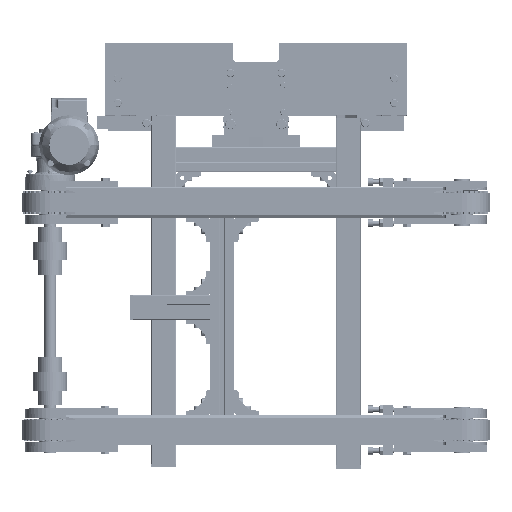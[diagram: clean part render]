
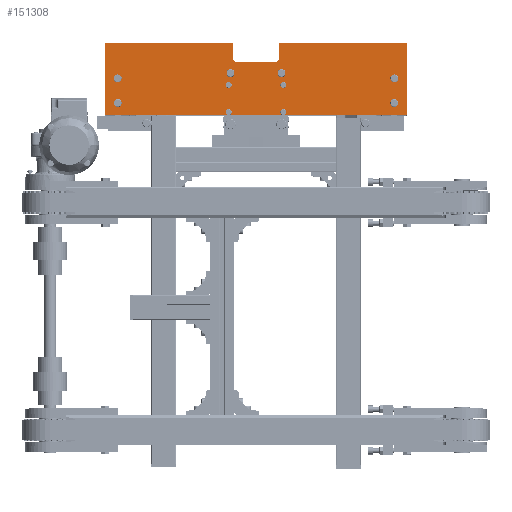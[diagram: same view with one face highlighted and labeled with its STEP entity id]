
A CAD part, top view. The second image highlights one B-rep face of the part: STEP entity #151308.
In plain terms, the highlighted planar face has unit normal (0, 0, 1).
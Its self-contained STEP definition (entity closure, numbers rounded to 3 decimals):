
#6934=LINE('',#249699,#20081);
#6935=LINE('',#249703,#20082);
#6936=LINE('',#249707,#20083);
#6937=LINE('',#249709,#20084);
#6938=LINE('',#249711,#20085);
#6939=LINE('',#249713,#20086);
#6940=LINE('',#249715,#20087);
#6941=LINE('',#249716,#20088);
#20081=VECTOR('',#190258,24.);
#20082=VECTOR('',#190261,63.);
#20083=VECTOR('',#190264,24.);
#20084=VECTOR('',#190265,207.5);
#20085=VECTOR('',#190266,117.);
#20086=VECTOR('',#190267,490.);
#20087=VECTOR('',#190268,117.);
#20088=VECTOR('',#190269,207.5);
#29695=PLANE('',#162528);
#32892=FACE_BOUND('',#49640,.T.);
#32893=FACE_BOUND('',#49641,.T.);
#32894=FACE_BOUND('',#49642,.T.);
#32895=FACE_BOUND('',#49643,.T.);
#32896=FACE_BOUND('',#49644,.T.);
#32897=FACE_BOUND('',#49645,.T.);
#32898=FACE_BOUND('',#49646,.T.);
#32899=FACE_BOUND('',#49647,.T.);
#32900=FACE_BOUND('',#49648,.T.);
#32901=FACE_BOUND('',#49649,.T.);
#41112=FACE_OUTER_BOUND('',#49639,.T.);
#49639=EDGE_LOOP('',(#120762,#120763,#120764,#120765,#120766,#120767,#120768,
#120769,#120770,#120771));
#49640=EDGE_LOOP('',(#120772));
#49641=EDGE_LOOP('',(#120773));
#49642=EDGE_LOOP('',(#120774));
#49643=EDGE_LOOP('',(#120775));
#49644=EDGE_LOOP('',(#120776));
#49645=EDGE_LOOP('',(#120777));
#49646=EDGE_LOOP('',(#120778));
#49647=EDGE_LOOP('',(#120779));
#49648=EDGE_LOOP('',(#120780));
#49649=EDGE_LOOP('',(#120781));
#57213=CIRCLE('',#162529,6.);
#57214=CIRCLE('',#162530,6.);
#57215=CIRCLE('',#162531,6.5);
#57216=CIRCLE('',#162532,6.5);
#57217=CIRCLE('',#162533,6.5);
#57218=CIRCLE('',#162534,5.);
#57219=CIRCLE('',#162535,5.);
#57220=CIRCLE('',#162536,5.);
#57221=CIRCLE('',#162537,5.);
#57222=CIRCLE('',#162538,6.5);
#57223=CIRCLE('',#162539,6.5);
#57224=CIRCLE('',#162540,6.5);
#68985=VERTEX_POINT('',#249697);
#68986=VERTEX_POINT('',#249698);
#68987=VERTEX_POINT('',#249700);
#68988=VERTEX_POINT('',#249702);
#68989=VERTEX_POINT('',#249704);
#68990=VERTEX_POINT('',#249706);
#68991=VERTEX_POINT('',#249708);
#68992=VERTEX_POINT('',#249710);
#68993=VERTEX_POINT('',#249712);
#68994=VERTEX_POINT('',#249714);
#68995=VERTEX_POINT('',#249717);
#68996=VERTEX_POINT('',#249719);
#68997=VERTEX_POINT('',#249721);
#68998=VERTEX_POINT('',#249723);
#68999=VERTEX_POINT('',#249725);
#69000=VERTEX_POINT('',#249727);
#69001=VERTEX_POINT('',#249729);
#69002=VERTEX_POINT('',#249731);
#69003=VERTEX_POINT('',#249733);
#69004=VERTEX_POINT('',#249735);
#87217=EDGE_CURVE('',#68985,#68986,#6934,.T.);
#87218=EDGE_CURVE('',#68987,#68986,#57213,.T.);
#87219=EDGE_CURVE('',#68987,#68988,#6935,.T.);
#87220=EDGE_CURVE('',#68989,#68988,#57214,.T.);
#87221=EDGE_CURVE('',#68989,#68990,#6936,.T.);
#87222=EDGE_CURVE('',#68991,#68990,#6937,.T.);
#87223=EDGE_CURVE('',#68992,#68991,#6938,.T.);
#87224=EDGE_CURVE('',#68993,#68992,#6939,.T.);
#87225=EDGE_CURVE('',#68994,#68993,#6940,.T.);
#87226=EDGE_CURVE('',#68985,#68994,#6941,.T.);
#87227=EDGE_CURVE('',#68995,#68995,#57215,.T.);
#87228=EDGE_CURVE('',#68996,#68996,#57216,.T.);
#87229=EDGE_CURVE('',#68997,#68997,#57217,.T.);
#87230=EDGE_CURVE('',#68998,#68998,#57218,.T.);
#87231=EDGE_CURVE('',#68999,#68999,#57219,.T.);
#87232=EDGE_CURVE('',#69000,#69000,#57220,.T.);
#87233=EDGE_CURVE('',#69001,#69001,#57221,.T.);
#87234=EDGE_CURVE('',#69002,#69002,#57222,.T.);
#87235=EDGE_CURVE('',#69003,#69003,#57223,.T.);
#87236=EDGE_CURVE('',#69004,#69004,#57224,.T.);
#120762=ORIENTED_EDGE('',*,*,#87217,.T.);
#120763=ORIENTED_EDGE('',*,*,#87218,.F.);
#120764=ORIENTED_EDGE('',*,*,#87219,.T.);
#120765=ORIENTED_EDGE('',*,*,#87220,.F.);
#120766=ORIENTED_EDGE('',*,*,#87221,.T.);
#120767=ORIENTED_EDGE('',*,*,#87222,.F.);
#120768=ORIENTED_EDGE('',*,*,#87223,.F.);
#120769=ORIENTED_EDGE('',*,*,#87224,.F.);
#120770=ORIENTED_EDGE('',*,*,#87225,.F.);
#120771=ORIENTED_EDGE('',*,*,#87226,.F.);
#120772=ORIENTED_EDGE('',*,*,#87227,.T.);
#120773=ORIENTED_EDGE('',*,*,#87228,.T.);
#120774=ORIENTED_EDGE('',*,*,#87229,.T.);
#120775=ORIENTED_EDGE('',*,*,#87230,.T.);
#120776=ORIENTED_EDGE('',*,*,#87231,.T.);
#120777=ORIENTED_EDGE('',*,*,#87232,.T.);
#120778=ORIENTED_EDGE('',*,*,#87233,.T.);
#120779=ORIENTED_EDGE('',*,*,#87234,.T.);
#120780=ORIENTED_EDGE('',*,*,#87235,.T.);
#120781=ORIENTED_EDGE('',*,*,#87236,.T.);
#151308=ADVANCED_FACE('',(#41112,#32892,#32893,#32894,#32895,#32896,#32897,
#32898,#32899,#32900,#32901),#29695,.T.);
#162528=AXIS2_PLACEMENT_3D('',#249696,#190256,#190257);
#162529=AXIS2_PLACEMENT_3D('',#249701,#190259,#190260);
#162530=AXIS2_PLACEMENT_3D('',#249705,#190262,#190263);
#162531=AXIS2_PLACEMENT_3D('',#249718,#190270,#190271);
#162532=AXIS2_PLACEMENT_3D('',#249720,#190272,#190273);
#162533=AXIS2_PLACEMENT_3D('',#249722,#190274,#190275);
#162534=AXIS2_PLACEMENT_3D('',#249724,#190276,#190277);
#162535=AXIS2_PLACEMENT_3D('',#249726,#190278,#190279);
#162536=AXIS2_PLACEMENT_3D('',#249728,#190280,#190281);
#162537=AXIS2_PLACEMENT_3D('',#249730,#190282,#190283);
#162538=AXIS2_PLACEMENT_3D('',#249732,#190284,#190285);
#162539=AXIS2_PLACEMENT_3D('',#249734,#190286,#190287);
#162540=AXIS2_PLACEMENT_3D('',#249736,#190288,#190289);
#190256=DIRECTION('center_axis',(0.,0.,
1.));
#190257=DIRECTION('ref_axis',(1.,0.,0.));
#190258=DIRECTION('',(0.,-1.,0.));
#190259=DIRECTION('center_axis',(0.,0.,
1.));
#190260=DIRECTION('ref_axis',(0.707,-0.707,0.));
#190261=DIRECTION('',(-1.,0.,0.));
#190262=DIRECTION('center_axis',(0.,0.,
1.));
#190263=DIRECTION('ref_axis',(-0.707,-0.707,0.));
#190264=DIRECTION('',(0.,1.,0.));
#190265=DIRECTION('',(1.,0.,0.));
#190266=DIRECTION('',(0.,1.,0.));
#190267=DIRECTION('',(-1.,0.,0.));
#190268=DIRECTION('',(0.,-1.,0.));
#190269=DIRECTION('',(1.,0.,0.));
#190270=DIRECTION('center_axis',(0.,0.,
-1.));
#190271=DIRECTION('ref_axis',(0.,1.,0.));
#190272=DIRECTION('center_axis',(0.,0.,
-1.));
#190273=DIRECTION('ref_axis',(-0.866,-0.5,0.));
#190274=DIRECTION('center_axis',(0.,0.,
-1.));
#190275=DIRECTION('ref_axis',(-0.866,-0.5,0.));
#190276=DIRECTION('center_axis',(0.,0.,
-1.));
#190277=DIRECTION('ref_axis',(0.866,0.5,0.));
#190278=DIRECTION('center_axis',(0.,0.,
-1.));
#190279=DIRECTION('ref_axis',(0.866,-0.5,0.));
#190280=DIRECTION('center_axis',(0.,0.,
-1.));
#190281=DIRECTION('ref_axis',(0.866,0.5,0.));
#190282=DIRECTION('center_axis',(0.,0.,
-1.));
#190283=DIRECTION('ref_axis',(0.,-1.,0.));
#190284=DIRECTION('center_axis',(0.,0.,
-1.));
#190285=DIRECTION('ref_axis',(0.866,0.5,0.));
#190286=DIRECTION('center_axis',(0.,0.,
-1.));
#190287=DIRECTION('ref_axis',(0.866,-0.5,0.));
#190288=DIRECTION('center_axis',(0.,0.,
-1.));
#190289=DIRECTION('ref_axis',(0.,1.,0.));
#249696=CARTESIAN_POINT('Origin',(0.,18.5,
1089.));
#249697=CARTESIAN_POINT('',(37.5,77.,1089.));
#249698=CARTESIAN_POINT('',(37.5,53.,1089.));
#249699=CARTESIAN_POINT('',(37.5,32.75,1089.));
#249700=CARTESIAN_POINT('',(31.5,47.,1089.));
#249701=CARTESIAN_POINT('Origin',(31.5,53.,1089.));
#249702=CARTESIAN_POINT('',(-31.5,47.,1089.));
#249703=CARTESIAN_POINT('',(-18.75,47.,1089.));
#249704=CARTESIAN_POINT('',(-37.5,53.,1089.));
#249705=CARTESIAN_POINT('Origin',(-31.5,53.,1089.));
#249706=CARTESIAN_POINT('',(-37.5,77.,1089.));
#249707=CARTESIAN_POINT('',(-37.5,72.75,1089.));
#249708=CARTESIAN_POINT('',(-245.,77.,1089.));
#249709=CARTESIAN_POINT('',(-245.,77.,1089.));
#249710=CARTESIAN_POINT('',(-245.,-40.,1089.));
#249711=CARTESIAN_POINT('',(-245.,-40.,1089.));
#249712=CARTESIAN_POINT('',(245.,-40.,1089.));
#249713=CARTESIAN_POINT('',(245.,-40.,1089.));
#249714=CARTESIAN_POINT('',(245.,77.,1089.));
#249715=CARTESIAN_POINT('',(245.,77.,1089.));
#249716=CARTESIAN_POINT('',(-245.,77.,1089.));
#249717=CARTESIAN_POINT('',(-41.5,35.2,1089.));
#249718=CARTESIAN_POINT('Origin',(-41.5,28.7,1089.));
#249719=CARTESIAN_POINT('',(219.371,16.75,1089.));
#249720=CARTESIAN_POINT('Origin',(225.,20.,1089.));
#249721=CARTESIAN_POINT('',(-230.629,-23.25,1089.));
#249722=CARTESIAN_POINT('Origin',(-225.,-20.,1089.));
#249723=CARTESIAN_POINT('',(48.83,-32.3,1089.));
#249724=CARTESIAN_POINT('Origin',(44.5,-34.8,1089.));
#249725=CARTESIAN_POINT('',(-40.17,6.7,1089.));
#249726=CARTESIAN_POINT('Origin',(-44.5,9.2,1089.));
#249727=CARTESIAN_POINT('',(48.83,11.7,1089.));
#249728=CARTESIAN_POINT('Origin',(44.5,9.2,1089.));
#249729=CARTESIAN_POINT('',(-44.5,-39.8,1089.));
#249730=CARTESIAN_POINT('Origin',(-44.5,-34.8,1089.));
#249731=CARTESIAN_POINT('',(-219.371,23.25,1089.));
#249732=CARTESIAN_POINT('Origin',(-225.,20.,1089.));
#249733=CARTESIAN_POINT('',(230.629,-23.25,1089.));
#249734=CARTESIAN_POINT('Origin',(225.,-20.,1089.));
#249735=CARTESIAN_POINT('',(41.5,35.2,1089.));
#249736=CARTESIAN_POINT('Origin',(41.5,28.7,1089.));
